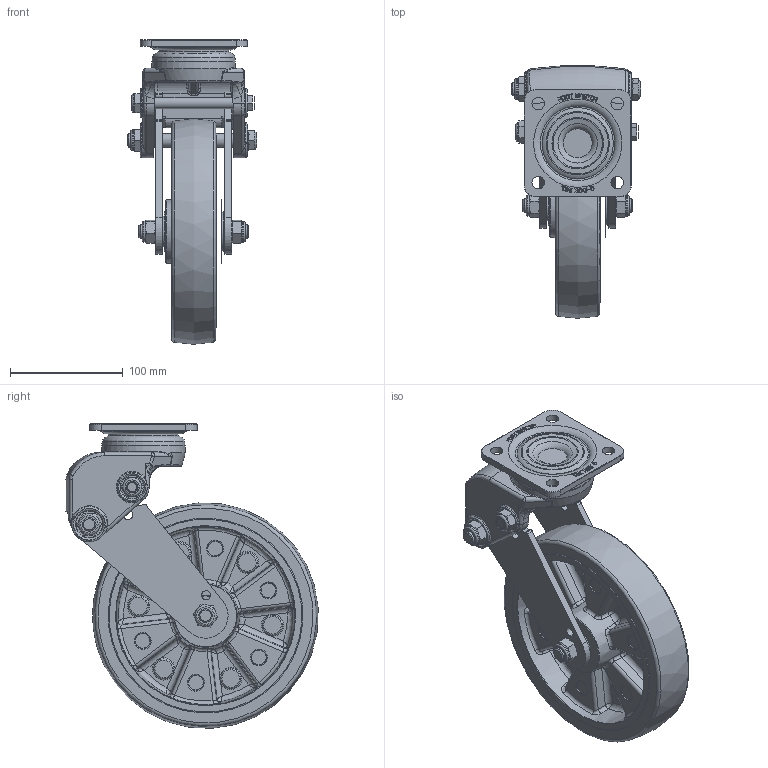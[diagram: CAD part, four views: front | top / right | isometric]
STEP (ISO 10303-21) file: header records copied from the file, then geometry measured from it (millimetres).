
FILE_DESCRIPTION(/* description */ (''),/* implementation_level */ '2;1');
FILE_NAME(/* name */ 'D:\★제품 렌더링\모델링파일\FULL 3D\GDS-200-SERIES\외부용\GDS-200-ASF-ASSY_Shrinkwrap_1.stp',/* time_stamp */ '2022-12-26T15:13:35+09:00',/* author */ ('장용하'),/* organization */ (''),/* preprocessor_version */ 'ST-DEVELOPER v18.1',/* originating_system */ 'Autodesk Inventor 2021',/* authorisation */ '');
FILE_SCHEMA (('AUTOMOTIVE_DESIGN { 1 0 10303 214 3 1 1 }'));
Products named in the file (1): GDS-200-ASF-ASSY_Shrinkwrap_1
Bounding box: 114.5 x 223.58 x 269.79 mm (x, y, z)
Volume: 1127062.6 mm3; surface area: 225070.7 mm2
Topology: 2 solids, 2 shells, 1111 faces, 2911 edges, 1808 vertices
Faces by surface type: plane 371, bspline 361, torus 155, cylinder 133, cone 87, sphere 4
Full cylindrical faces by diameter (mm): 8 x2, 8.2 x2, 10 x1, 11 x4, 12 x4, 12.2 x2, 18.5 x3, 18.6 x1, 24 x1, 26 x2, 27 x2, 35 x2, 62 x1, 74 x1
Entity records: 45641 total; most frequent: CARTESIAN_POINT 19424, ORIENTED_EDGE 5698, DIRECTION 4512, EDGE_CURVE 2849, VERTEX_POINT 1808, AXIS2_PLACEMENT_3D 1782, EDGE_LOOP 1201, FACE_OUTER_BOUND 1111
